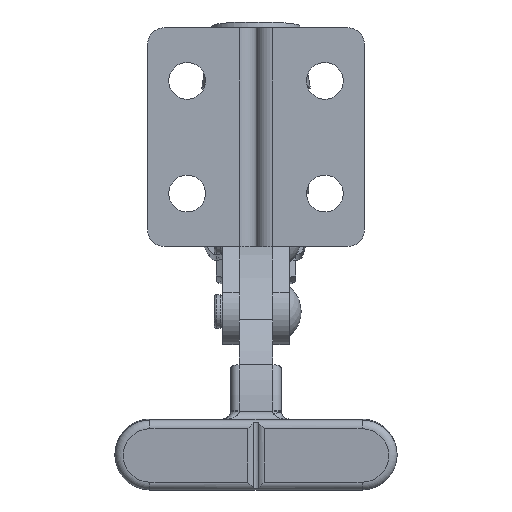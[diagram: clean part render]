
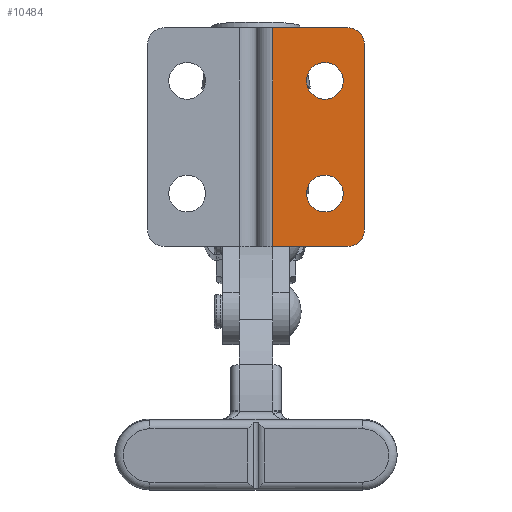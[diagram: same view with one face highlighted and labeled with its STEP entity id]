
A CAD part, front view. The second image highlights one B-rep face of the part: STEP entity #10484.
In plain terms, the highlighted planar face has unit normal (0, -1, 0).
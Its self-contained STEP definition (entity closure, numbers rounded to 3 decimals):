
#889=FACE_BOUND('',#1843,.T.);
#890=FACE_BOUND('',#1844,.T.);
#959=PLANE('',#11316);
#1236=FACE_OUTER_BOUND('',#1842,.T.);
#1842=EDGE_LOOP('',(#7481,#7482,#7483,#7484,#7485,#7486));
#1843=EDGE_LOOP('',(#7487,#7488));
#1844=EDGE_LOOP('',(#7489,#7490));
#2571=LINE('',#15282,#3458);
#2572=LINE('',#15286,#3459);
#2573=LINE('',#15290,#3460);
#2574=LINE('',#15293,#3461);
#3458=VECTOR('',#12219,1000.);
#3459=VECTOR('',#12224,1000.);
#3460=VECTOR('',#12227,1000.);
#3461=VECTOR('',#12230,1000.);
#4241=CIRCLE('',#11277,2.2);
#4242=CIRCLE('',#11278,2.2);
#4245=CIRCLE('',#11282,2.2);
#4246=CIRCLE('',#11283,2.2);
#4263=CIRCLE('',#11317,2.);
#4264=CIRCLE('',#11318,2.);
#4500=VERTEX_POINT('',#14238);
#4501=VERTEX_POINT('',#14240);
#4504=VERTEX_POINT('',#14248);
#4505=VERTEX_POINT('',#14250);
#4639=VERTEX_POINT('',#15279);
#4640=VERTEX_POINT('',#15281);
#4641=VERTEX_POINT('',#15285);
#4642=VERTEX_POINT('',#15287);
#4643=VERTEX_POINT('',#15289);
#4644=VERTEX_POINT('',#15291);
#5606=EDGE_CURVE('',#4500,#4501,#4241,.T.);
#5607=EDGE_CURVE('',#4501,#4500,#4242,.T.);
#5611=EDGE_CURVE('',#4504,#4505,#4245,.T.);
#5612=EDGE_CURVE('',#4505,#4504,#4246,.T.);
#5757=EDGE_CURVE('',#4640,#4639,#2571,.T.);
#5759=EDGE_CURVE('',#4641,#4639,#2572,.T.);
#5760=EDGE_CURVE('',#4641,#4642,#4263,.T.);
#5761=EDGE_CURVE('',#4643,#4642,#2573,.T.);
#5762=EDGE_CURVE('',#4643,#4644,#4264,.T.);
#5763=EDGE_CURVE('',#4644,#4640,#2574,.T.);
#7481=ORIENTED_EDGE('',*,*,#5759,.F.);
#7482=ORIENTED_EDGE('',*,*,#5760,.T.);
#7483=ORIENTED_EDGE('',*,*,#5761,.F.);
#7484=ORIENTED_EDGE('',*,*,#5762,.T.);
#7485=ORIENTED_EDGE('',*,*,#5763,.T.);
#7486=ORIENTED_EDGE('',*,*,#5757,.T.);
#7487=ORIENTED_EDGE('',*,*,#5607,.F.);
#7488=ORIENTED_EDGE('',*,*,#5606,.F.);
#7489=ORIENTED_EDGE('',*,*,#5612,.F.);
#7490=ORIENTED_EDGE('',*,*,#5611,.F.);
#10484=ADVANCED_FACE('',(#1236,#889,#890),#959,.T.);
#11277=AXIS2_PLACEMENT_3D('',#14241,#12060,#12061);
#11278=AXIS2_PLACEMENT_3D('',#14242,#12062,#12063);
#11282=AXIS2_PLACEMENT_3D('',#14251,#12071,#12072);
#11283=AXIS2_PLACEMENT_3D('',#14252,#12073,#12074);
#11316=AXIS2_PLACEMENT_3D('',#15284,#12222,#12223);
#11317=AXIS2_PLACEMENT_3D('',#15288,#12225,#12226);
#11318=AXIS2_PLACEMENT_3D('',#15292,#12228,#12229);
#12060=DIRECTION('center_axis',(0.,-1.,0.));
#12061=DIRECTION('ref_axis',(0.,0.,-1.));
#12062=DIRECTION('center_axis',(0.,-1.,0.));
#12063=DIRECTION('ref_axis',(0.,0.,-1.));
#12071=DIRECTION('center_axis',(0.,-1.,0.));
#12072=DIRECTION('ref_axis',(0.,0.,-1.));
#12073=DIRECTION('center_axis',(0.,-1.,0.));
#12074=DIRECTION('ref_axis',(0.,0.,-1.));
#12219=DIRECTION('',(0.,0.,-1.));
#12222=DIRECTION('center_axis',(0.,-1.,0.));
#12223=DIRECTION('ref_axis',(0.,0.,-1.));
#12224=DIRECTION('',(-1.,0.,0.));
#12225=DIRECTION('center_axis',(0.,-1.,0.));
#12226=DIRECTION('ref_axis',(0.,0.,-1.));
#12227=DIRECTION('',(0.,0.,-1.));
#12228=DIRECTION('center_axis',(0.,-1.,0.));
#12229=DIRECTION('ref_axis',(0.,0.,-1.));
#12230=DIRECTION('',(-1.,0.,0.));
#14238=CARTESIAN_POINT('',(-17.287,0.,8.55));
#14240=CARTESIAN_POINT('',(-17.287,0.,4.15));
#14241=CARTESIAN_POINT('Origin',(-17.287,0.,6.35));
#14242=CARTESIAN_POINT('Origin',(-17.287,0.,6.35));
#14248=CARTESIAN_POINT('',(-17.287,0.,22.05));
#14250=CARTESIAN_POINT('',(-17.287,0.,17.65));
#14251=CARTESIAN_POINT('Origin',(-17.287,0.,19.85));
#14252=CARTESIAN_POINT('Origin',(-17.287,0.,19.85));
#15279=CARTESIAN_POINT('',(-23.537,0.,0.));
#15281=CARTESIAN_POINT('',(-23.537,0.,26.2));
#15282=CARTESIAN_POINT('',(-23.537,0.,26.2));
#15284=CARTESIAN_POINT('Origin',(-22.491,0.,26.2));
#15285=CARTESIAN_POINT('',(-14.537,0.,0.));
#15286=CARTESIAN_POINT('',(-22.491,0.,0.));
#15287=CARTESIAN_POINT('',(-12.537,0.,2.));
#15288=CARTESIAN_POINT('Origin',(-14.537,0.,2.));
#15289=CARTESIAN_POINT('',(-12.537,0.,24.2));
#15290=CARTESIAN_POINT('',(-12.537,0.,26.2));
#15291=CARTESIAN_POINT('',(-14.537,0.,26.2));
#15292=CARTESIAN_POINT('Origin',(-14.537,0.,24.2));
#15293=CARTESIAN_POINT('',(-22.491,0.,26.2));
